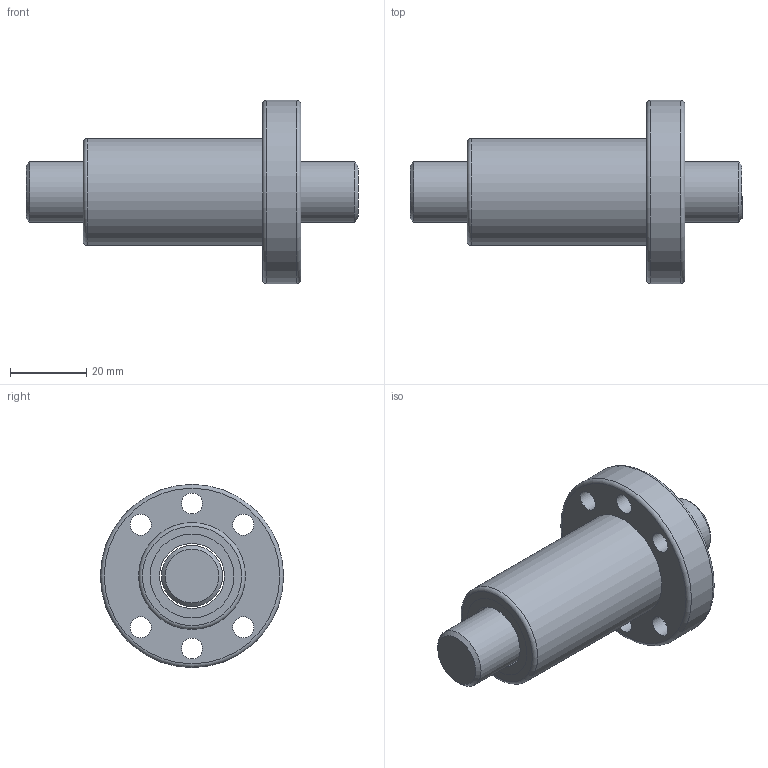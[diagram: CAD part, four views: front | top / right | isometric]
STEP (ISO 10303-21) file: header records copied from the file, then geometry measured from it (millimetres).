
FILE_DESCRIPTION(/* description */ (''),/* implementation_level */ '2;1');
FILE_NAME(/* name */ 'SFU1610',/* time_stamp */ '2007-10-26T13:25:21+08:00',/* author */ (''),/* organization */ (''),/* preprocessor_version */ 'ST-DEVELOPER v9',/* originating_system */ 'EDS PLM SOLUTIONS - UNIGRAPHICS NX 1.0',/* authorisation */ '');
FILE_SCHEMA (('CONFIG_CONTROL_DESIGN'));
Length unit declared in the file: millimetre
Products named in the file (1): FANNDA0400hx
Bounding box: 87 x 48 x 48 mm (x, y, z)
Volume: 50034.1 mm3; surface area: 18728.7 mm2
Topology: 4 solids, 4 shells, 32 faces, 64 edges, 43 vertices
Faces by surface type: cylinder 16, plane 11, torus 3, cone 2
Full cylindrical faces by diameter (mm): 5.5 x6, 16 x1, 17 x3, 22 x4, 28 x1, 48 x1
Entity records: 810 total; most frequent: DIRECTION 140, CARTESIAN_POINT 107, EDGE_LOOP 74, ORIENTED_EDGE 74, AXIS2_PLACEMENT_3D 70, FACE_BOUND 61, VERTEX_POINT 37, EDGE_CURVE 37
